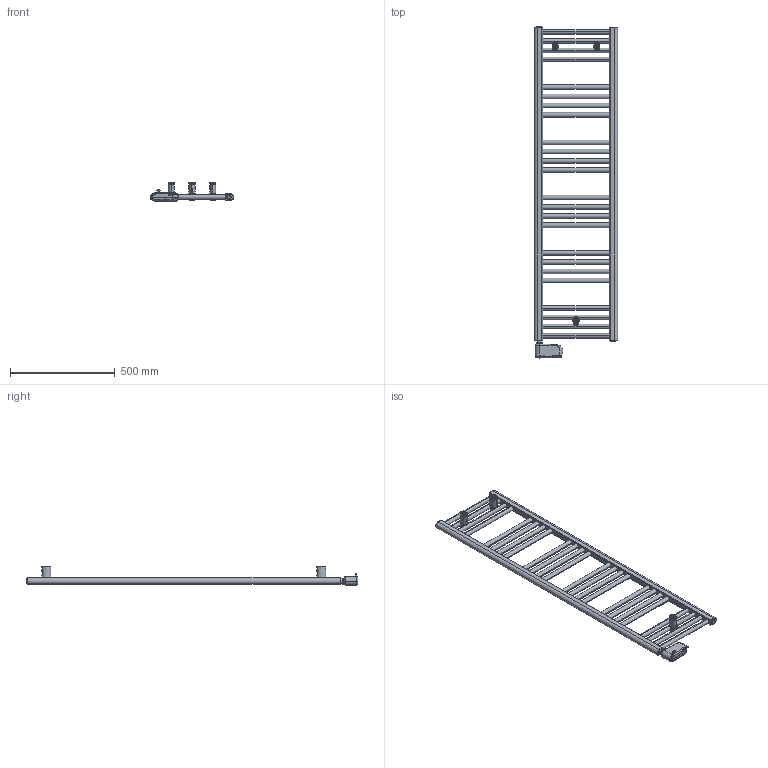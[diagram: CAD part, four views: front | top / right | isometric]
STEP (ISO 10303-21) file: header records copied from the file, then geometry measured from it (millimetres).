
FILE_DESCRIPTION((''),'2;1');
FILE_NAME('3581656100015_3D_SITO_ASM','2026-01-13T16:48:50',('PC132'),(''),'CREO PARAMETRIC BY PTC INC, 2025323','CREO PARAMETRIC BY PTC INC, 2025323','');
FILE_SCHEMA(('AUTOMOTIVE_DESIGN { 1 0 10303 214 1 1 1 1 }'));
Length unit declared in the file: millimetre
Products named in the file (17): 2551650500210_3D_SITO; BICCHIERE_PARETE; PERNO_SCORROVOLE; DADO_QUADRO_M5_X_GIUNTO; DADO_M6_X_GIUNTO; PERNO_SCORREVOLE_ASM; BASETTA_ANTERIORE; 1527181430001; VITE_CR_M5_16; VITE_CR_SV_M6_35; 1102001310058_ASM; 1010181240001; 1117000001010; 1035270000037_FRONT; 1035270000037_BACK; 1035270000060_ASM; 3581656100015_3D_SITO_ASM
Assembly tree (19 placements, depth 4):
  3581656100015_3D_SITO_ASM
    2551650500210_3D_SITO
    1102001310058_ASM  x3
      BICCHIERE_PARETE
      PERNO_SCORREVOLE_ASM
        PERNO_SCORROVOLE
        DADO_QUADRO_M5_X_GIUNTO
        DADO_M6_X_GIUNTO
      BASETTA_ANTERIORE
      1527181430001
      VITE_CR_M5_16
      VITE_CR_SV_M6_35
    1010181240001  x2
    1117000001010
    1035270000060_ASM
      1035270000037_FRONT
      1035270000037_BACK
Bounding box: 400 x 1586.4 x 88.65 mm (x, y, z)
Volume: 6675782.8 mm3; surface area: 1059572.9 mm2
Topology: 32 solids, 45 shells, 5053 faces, 11104 edges, 6169 vertices
Faces by surface type: cylinder 1952, plane 895, torus 766, sphere 641, bspline 609, cone 136, extrusion 54
Entity records: 111602 total; most frequent: CARTESIAN_POINT 41991, DIRECTION 10220, ORIENTED_EDGE 8630, EDGE_CURVE 4328, PRESENTATION_STYLE_ASSIGNMENT 4278, STYLED_ITEM 4274, CURVE_STYLE 4257, AXIS2_PLACEMENT_3D 4239
